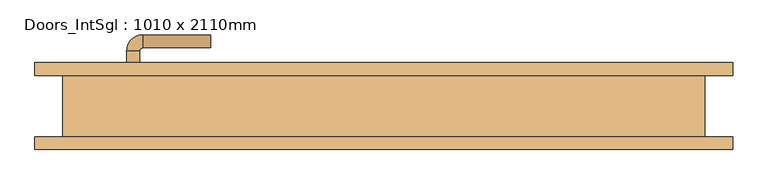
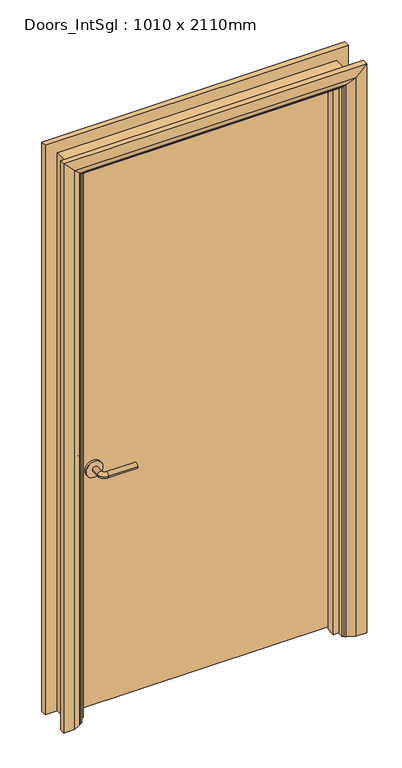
"""IFC4 building model written with IfcOpenShell, lengths in millimetres: door geometry, Doors_IntSgl : 1010 x 2110mm."""

from ifc_helpers import new_model, si_unit, point, frame, frame_2d, origin, place, context, project, spatial, polyline, circle_curve, ellipse_curve, trimmed, segment, composite_curve, outline, extrude, faceted_brep, source, transform, mapped, element, save
from ifc_brep_helpers import plane_surface, cylinder_surface, revolved_surface, advanced_brep


def doors_intsgl_1010_x_2110mm_9b3ab836(model_context):
    return source(origin(), model_context, "Body", "SolidModel", [
        advanced_brep(
        [(-398.0, 1.5, 900.0), (-378.0, 1.5, 900.0), (-378.0, -28.5, 900.0), (-398.0, -28.5, 900.0), (-373.0, -33.5, 900.0), (-373.0, -53.5, 900.0), (-268.0, -53.5, 900.0), (-268.0, -33.5, 900.0)],
        [
            (0, 1, circle_curve(frame((-388.0, 1.5, 900.0), z_axis=(0.0, 1.0, 0.0), x_axis=(1.0, 0.0, 0.0)), 10.0)),
            (1, 0, circle_curve(frame((-388.0, 1.5, 900.0), z_axis=(0.0, 1.0, 0.0), x_axis=(1.0, 0.0, 0.0)), 10.0)),
            (1, 2),
            (2, 3, circle_curve(frame((-388.0, -28.5, 900.0), z_axis=(0.0, 1.0, 0.0), x_axis=(1.0, 0.0, 0.0)), 10.0)),
            (3, 0),
            (3, 2, circle_curve(frame((-388.0, -28.5, 900.0), z_axis=(0.0, 1.0, 0.0), x_axis=(1.0, 0.0, 0.0)), 10.0)),
            (4, 5, circle_curve(frame((-373.0, -43.5, 900.0), z_axis=(-1.0, 0.0, 0.0), x_axis=(0.0, 1.0, 0.0)), 10.0)),
            (5, 3, circle_curve(frame((-373.0, -28.5, 900.0), z_axis=(0.0, 0.0, -1.0), x_axis=(-1.0, 0.0, 0.0)), 25.0)),
            (2, 4, circle_curve(frame((-373.0, -28.5, 900.0), z_axis=(0.0, 0.0, 1.0), x_axis=(-1.0, 0.0, 0.0)), 5.0)),
            (5, 4, circle_curve(frame((-373.0, -43.5, 900.0), z_axis=(-1.0, 0.0, 0.0), x_axis=(0.0, 1.0, 0.0)), 10.0)),
            (6, 7, circle_curve(frame((-268.0, -43.5, 900.0), z_axis=(1.0, 0.0, 0.0), x_axis=(0.0, 1.0, 0.0)), 10.0)),
            (7, 6, circle_curve(frame((-268.0, -43.5, 900.0), z_axis=(1.0, 0.0, 0.0), x_axis=(0.0, 1.0, 0.0)), 10.0)),
            (4, 7),
            (6, 5),
        ],
        [
            plane_surface(frame((-388.0, 1.5, 900.0), z_axis=(0.0, 1.0, 0.0), x_axis=(0.0, 0.0, 1.0))),
            cylinder_surface(frame((-388.0, 1.5, 900.0), z_axis=(0.0, 1.0, 0.0), x_axis=(1.0, 0.0, 0.0)), 10.0),
            revolved_surface(trimmed(ellipse_curve(frame((-388.0, -28.5, 900.0), z_axis=(0.0, -1.0, 0.0), x_axis=(1.0, 0.0, 0.0)), 10.0, 10.0), [point((-398.0, -28.5, 900.0))], [point((-378.0, -28.5, 900.0))], True, "CARTESIAN"), (-373.0, -28.5, 900.0), (0.0, 0.0, -1.0)),
            revolved_surface(trimmed(ellipse_curve(frame((-388.0, -28.5, 900.0), z_axis=(0.0, -1.0, 0.0), x_axis=(1.0, 0.0, 0.0)), 10.0, 10.0), [point((-378.0, -28.5, 900.0))], [point((-398.0, -28.5, 900.0))], True, "CARTESIAN"), (-373.0, -28.5, 900.0), (0.0, 0.0, -1.0)),
            plane_surface(frame((-268.0, -43.5, 900.0), z_axis=(1.0, 0.0, 0.0), x_axis=(0.0, 0.0, 1.0))),
            cylinder_surface(frame((-373.0, -43.5, 900.0), z_axis=(-1.0, 0.0, 0.0), x_axis=(0.0, 1.0, 0.0)), 10.0),
        ],
        [
            (0, [[1, 2]]),
            (1, [[3, 4, 5, -2]]),
            (1, [[-5, 6, -3, -1]]),
            (2, [[7, 8, -4, 9]]),
            (3, [[10, -9, -6, -8]]),
            (4, [[11, 12]]),
            (5, [[13, -11, 14, -7]]),
            (5, [[-14, -12, -13, -10]]),
        ],
    ),
        extrude(outline(composite_curve([segment(trimmed(circle_curve(frame_2d((900.0, -390.5)), 30.0), [point((900.0, -420.5))], [point((900.0, -360.5))], False, "CARTESIAN"), True, "CONTINUOUS"), segment(trimmed(circle_curve(frame_2d((900.0, -390.5)), 30.0), [point((900.0, -360.5))], [point((900.0, -420.5))], False, "CARTESIAN"), True, "CONTINUOUS")], self_intersect=False)), frame((0.0, 1.5, 0.0), z_axis=(0.0, 1.0, 0.0), x_axis=(0.0, 0.0, 1.0)), (0.0, 0.0, 1.0), 8.0),
        advanced_brep(
        [(-398.0, 55.5, 900.0), (-378.0, 55.5, 900.0), (-398.0, 85.5, 900.0), (-378.0, 85.5, 900.0), (-373.0, 90.5, 900.0), (-373.0, 110.5, 900.0), (-268.0, 110.5, 900.0), (-268.0, 90.5, 900.0)],
        [
            (0, 1, circle_curve(frame((-388.0, 55.5, 900.0), z_axis=(0.0, -1.0, 0.0), x_axis=(1.0, 0.0, 0.0)), 10.0)),
            (1, 0, circle_curve(frame((-388.0, 55.5, 900.0), z_axis=(0.0, -1.0, 0.0), x_axis=(1.0, 0.0, 0.0)), 10.0)),
            (0, 2),
            (2, 3, circle_curve(frame((-388.0, 85.5, 900.0), z_axis=(0.0, -1.0, 0.0), x_axis=(1.0, 0.0, 0.0)), 10.0)),
            (3, 1),
            (3, 2, circle_curve(frame((-388.0, 85.5, 900.0), z_axis=(0.0, -1.0, 0.0), x_axis=(1.0, 0.0, 0.0)), 10.0)),
            (4, 3, circle_curve(frame((-373.0, 85.5, 900.0), z_axis=(0.0, 0.0, 1.0), x_axis=(-1.0, 0.0, 0.0)), 5.0)),
            (2, 5, circle_curve(frame((-373.0, 85.5, 900.0), z_axis=(0.0, 0.0, -1.0), x_axis=(-1.0, 0.0, 0.0)), 25.0)),
            (5, 4, circle_curve(frame((-373.0, 100.5, 900.0), z_axis=(-1.0, 0.0, 0.0), x_axis=(0.0, -1.0, 0.0)), 10.0)),
            (4, 5, circle_curve(frame((-373.0, 100.5, 900.0), z_axis=(-1.0, 0.0, 0.0), x_axis=(0.0, -1.0, 0.0)), 10.0)),
            (6, 7, circle_curve(frame((-268.0, 100.5, 900.0), z_axis=(1.0, 0.0, 0.0), x_axis=(0.0, -1.0, 0.0)), 10.0)),
            (7, 6, circle_curve(frame((-268.0, 100.5, 900.0), z_axis=(1.0, 0.0, 0.0), x_axis=(0.0, -1.0, 0.0)), 10.0)),
            (5, 6),
            (7, 4),
        ],
        [
            plane_surface(frame((-388.0, 55.5, 900.0), z_axis=(0.0, -1.0, 0.0), x_axis=(0.0, 0.0, 1.0))),
            cylinder_surface(frame((-388.0, 55.5, 900.0), z_axis=(0.0, -1.0, 0.0), x_axis=(1.0, 0.0, 0.0)), 10.0),
            revolved_surface(trimmed(ellipse_curve(frame((-388.0, 85.5, 900.0), z_axis=(0.0, -1.0, 0.0), x_axis=(1.0, 0.0, 0.0)), 10.0, 10.0), [point((-398.0, 85.5, 900.0))], [point((-378.0, 85.5, 900.0))], True, "CARTESIAN"), (-373.0, 85.5, 900.0), (0.0, 0.0, -1.0)),
            revolved_surface(trimmed(ellipse_curve(frame((-388.0, 85.5, 900.0), z_axis=(0.0, -1.0, 0.0), x_axis=(1.0, 0.0, 0.0)), 10.0, 10.0), [point((-378.0, 85.5, 900.0))], [point((-398.0, 85.5, 900.0))], True, "CARTESIAN"), (-373.0, 85.5, 900.0), (0.0, 0.0, -1.0)),
            plane_surface(frame((-268.0, 100.5, 900.0), z_axis=(1.0, 0.0, 0.0), x_axis=(0.0, 0.0, 1.0))),
            cylinder_surface(frame((-373.0, 100.5, 900.0), z_axis=(-1.0, 0.0, 0.0), x_axis=(0.0, -1.0, 0.0)), 10.0),
        ],
        [
            (0, [[1, 2]]),
            (1, [[-1, 3, 4, 5]]),
            (1, [[-2, -5, 6, -3]]),
            (2, [[7, -4, 8, 9]]),
            (3, [[-8, -6, -7, 10]]),
            (4, [[11, 12]]),
            (5, [[-9, 13, -12, 14]]),
            (5, [[-10, -14, -11, -13]]),
        ],
    ),
        extrude(outline(composite_curve([segment(trimmed(circle_curve(frame_2d((900.0, -390.5)), 30.0), [point((900.0, -420.5))], [point((900.0, -360.5))], False, "CARTESIAN"), True, "CONTINUOUS"), segment(trimmed(circle_curve(frame_2d((900.0, -390.5)), 30.0), [point((900.0, -360.5))], [point((900.0, -420.5))], False, "CARTESIAN"), True, "CONTINUOUS")], self_intersect=False)), frame((0.0, 47.5, 0.0), z_axis=(0.0, 1.0, 0.0), x_axis=(0.0, 0.0, 1.0)), (0.0, 0.0, 1.0), 8.0),
        extrude(outline(polyline([(463.0, 9.5), (-463.0, 9.5), (-463.0, 47.5), (463.0, 47.5), (463.0, 9.5)])), frame((0.0, 0.0, 8.0), z_axis=(0.0, 0.0, 1.0), x_axis=(1.0, 0.0, 0.0)), (0.0, 0.0, 1.0), 2060.0),
        advanced_brep(
        [(540.0, 67.5, 0.0), (540.0, 47.5, 0.0), (470.0, 47.5, 0.0), (474.0, 53.5, 0.0), (500.0, 67.5, 0.0), (540.0, 67.5, 2145.0), (540.0, 47.5, 2145.0), (-540.0, 47.5, 2145.0), (-540.0, 47.5, 0.0), (-470.0, 47.5, 0.0), (-470.0, 47.5, 2075.0), (470.0, 47.5, 2075.0), (474.0, 53.5, 2079.0), (500.0, 67.5, 2105.0), (-500.0, 67.5, 2105.0), (-500.0, 67.5, 0.0), (-540.0, 67.5, 0.0), (-540.0, 67.5, 2145.0), (-474.0, 53.5, 2079.0), (-474.0, 53.5, 0.0)],
        [
            (0, 1),
            (1, 2),
            (2, 3, circle_curve(frame((478.0, 46.5, 0.0), z_axis=(0.0, 0.0, -1.0), x_axis=(1.0, 0.0, 0.0)), 8.0622577)),
            (3, 4),
            (4, 0),
            (0, 5),
            (5, 6),
            (6, 1),
            (6, 7),
            (7, 8),
            (8, 9),
            (9, 10),
            (10, 11),
            (11, 2),
            (11, 12, ellipse_curve(frame((478.0, 46.5, 2083.0), z_axis=(0.7071067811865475, 0.0, -0.7071067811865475), x_axis=(-0.7071067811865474, 0.0, -0.7071067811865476)), 11.4017543, 8.0622577)),
            (12, 3),
            (12, 13),
            (13, 4),
            (13, 14),
            (14, 15),
            (15, 16),
            (16, 17),
            (17, 5),
            (17, 7),
            (10, 18, ellipse_curve(frame((-478.0, 46.5, 2083.0), z_axis=(0.7071067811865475, 0.0, 0.7071067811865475), x_axis=(0.7071067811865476, 0.0, -0.7071067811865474)), 11.4017543, 8.0622577)),
            (18, 12),
            (18, 14),
            (15, 19),
            (19, 9, circle_curve(frame((-478.0, 46.5, 0.0), z_axis=(0.0, 0.0, -1.0), x_axis=(-1.0, 0.0, 0.0)), 8.0622577)),
            (8, 16),
            (19, 18),
        ],
        [
            plane_surface(frame((470.0, 47.5, 0.0), z_axis=(0.0, 0.0, -1.0), x_axis=(0.0, -1.0, 0.0))),
            plane_surface(frame((540.0, 67.5, 0.0), z_axis=(1.0, 0.0, 0.0), x_axis=(0.0, 0.0, 1.0))),
            plane_surface(frame((540.0, 47.5, 0.0), z_axis=(0.0, -1.0, 0.0), x_axis=(0.0, 0.0, 1.0))),
            cylinder_surface(frame((478.0, 46.5, 0.0), z_axis=(0.0, 0.0, -1.0), x_axis=(1.0, 0.0, 0.0)), 8.0622577),
            plane_surface(frame((474.0, 53.5, 0.0), z_axis=(-0.4740998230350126, 0.880471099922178, 0.0), x_axis=(0.0, 0.0, 1.0))),
            plane_surface(frame((500.0, 67.5, 0.0), z_axis=(0.0, 1.0, 0.0), x_axis=(0.0, 0.0, 1.0))),
            plane_surface(frame((540.0, 67.5, 2145.0), z_axis=(0.0, 0.0, 1.0), x_axis=(-1.0, 0.0, 0.0))),
            cylinder_surface(frame((470.0, 46.5, 2083.0), z_axis=(1.0, 0.0, 0.0), x_axis=(0.0, 0.0, 1.0)), 8.0622577),
            plane_surface(frame((474.0, 53.5, 2079.0), z_axis=(0.0, 0.8804710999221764, -0.4740998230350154), x_axis=(-1.0, 0.0, 0.0))),
            plane_surface(frame((-470.0, 47.5, 0.0), z_axis=(0.0, 0.0, -1.0), x_axis=(0.0, -1.0, 0.0))),
            plane_surface(frame((-540.0, 67.5, 2145.0), z_axis=(-1.0, 0.0, 0.0), x_axis=(0.0, 0.0, -1.0))),
            cylinder_surface(frame((-478.0, 46.5, 2075.0), z_axis=(0.0, 0.0, 1.0), x_axis=(-1.0, 0.0, 0.0)), 8.0622577),
            plane_surface(frame((-474.0, 53.5, 2079.0), z_axis=(0.47409982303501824, 0.8804710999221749, 0.0), x_axis=(0.0, 0.0, -1.0))),
        ],
        [
            (0, [[1, 2, 3, 4, 5]]),
            (1, [[-1, 6, 7, 8]]),
            (2, [[-2, -8, 9, 10, 11, 12, 13, 14]]),
            (3, [[-3, -14, 15, 16]]),
            (4, [[-4, -16, 17, 18]]),
            (5, [[-5, -18, 19, 20, 21, 22, 23, -6]]),
            (6, [[-7, -23, 24, -9]]),
            (7, [[-15, -13, 25, 26]]),
            (8, [[-17, -26, 27, -19]]),
            (9, [[-21, 28, 29, -11, 30]]),
            (10, [[-24, -22, -30, -10]]),
            (11, [[-25, -12, -29, 31]]),
            (12, [[-27, -31, -28, -20]]),
        ],
    ),
        extrude(outline(polyline([(0.0, -465.0), (0.0, -446.0), (2051.0, -446.0), (2051.0, 446.0), (0.0, 446.0), (0.0, 465.0), (2070.0, 465.0), (2070.0, -465.0), (0.0, -465.0)])), frame((0.0, -24.5, 0.0), z_axis=(0.0, 1.0, 0.0), x_axis=(0.0, 0.0, 1.0)), (0.0, 0.0, 1.0), 32.0),
        advanced_brep(
        [(-540.0, -67.5, 0.0), (-540.0, -47.5, 0.0), (-470.0, -47.5, 0.0), (-474.0, -53.5, 0.0), (-500.0, -67.5, 0.0), (-540.0, -67.5, 2145.0), (-540.0, -47.5, 2145.0), (-470.0, -47.5, 2075.0), (-474.0, -53.5, 2079.0), (-500.0, -67.5, 2105.0), (540.0, -67.5, 2145.0), (540.0, -47.5, 2145.0), (470.0, -47.5, 2075.0), (474.0, -53.5, 2079.0), (500.0, -67.5, 2105.0), (540.0, -67.5, 0.0), (500.0, -67.5, 0.0), (474.0, -53.5, 0.0), (470.0, -47.5, 0.0), (540.0, -47.5, 0.0)],
        [
            (0, 1),
            (1, 2),
            (2, 3, circle_curve(frame((-478.0, -46.5, 0.0), z_axis=(0.0, 0.0, -1.0), x_axis=(-1.0, 0.0, 0.0)), 8.0622577)),
            (3, 4),
            (4, 0),
            (0, 5),
            (5, 6),
            (6, 1),
            (6, 7),
            (7, 2),
            (7, 8, ellipse_curve(frame((-478.0, -46.5, 2083.0), z_axis=(-0.7071067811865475, 0.0, -0.7071067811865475), x_axis=(0.7071067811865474, 0.0, -0.7071067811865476)), 11.4017543, 8.0622577)),
            (8, 3),
            (8, 9),
            (9, 4),
            (9, 5),
            (5, 10),
            (10, 11),
            (11, 6),
            (11, 12),
            (12, 7),
            (12, 13, ellipse_curve(frame((478.0, -46.5, 2083.0), z_axis=(-0.7071067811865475, 0.0, 0.7071067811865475), x_axis=(-0.7071067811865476, 0.0, -0.7071067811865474)), 11.4017543, 8.0622577)),
            (13, 8),
            (13, 14),
            (14, 9),
            (14, 10),
            (15, 16),
            (16, 17),
            (17, 18, circle_curve(frame((478.0, -46.5, 0.0), z_axis=(0.0, 0.0, -1.0), x_axis=(1.0, 0.0, 0.0)), 8.0622577)),
            (18, 19),
            (19, 15),
            (10, 15),
            (19, 11),
            (18, 12),
            (17, 13),
            (16, 14),
        ],
        [
            plane_surface(frame((-470.0, -120.3010989, 0.0), z_axis=(0.0, 0.0, -1.0), x_axis=(1.0, 0.0, 0.0))),
            plane_surface(frame((-540.0, -67.5, 0.0), z_axis=(-1.0, 0.0, 0.0), x_axis=(0.0, 0.0, 1.0))),
            plane_surface(frame((-540.0, -47.5, 0.0), z_axis=(0.0, 1.0, 0.0), x_axis=(0.0, 0.0, 1.0))),
            cylinder_surface(frame((-478.0, -46.5, 0.0), z_axis=(0.0, 0.0, -1.0), x_axis=(-1.0, 0.0, 0.0)), 8.0622577),
            plane_surface(frame((-474.0, -53.5, 0.0), z_axis=(0.4740998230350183, -0.8804710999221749, 0.0), x_axis=(0.0, 0.0, 1.0))),
            plane_surface(frame((-500.0, -67.5, 0.0), z_axis=(0.0, -1.0, 0.0), x_axis=(0.0, 0.0, 1.0))),
            plane_surface(frame((-540.0, -67.5, 2145.0), z_axis=(0.0, 0.0, 1.0), x_axis=(1.0, 0.0, 0.0))),
            plane_surface(frame((-540.0, -47.5, 2145.0), z_axis=(0.0, 1.0, 0.0), x_axis=(1.0, 0.0, 0.0))),
            cylinder_surface(frame((-470.0, -46.5, 2083.0), z_axis=(-1.0, 0.0, 0.0), x_axis=(0.0, 0.0, 1.0)), 8.0622577),
            plane_surface(frame((-474.0, -53.5, 2079.0), z_axis=(0.0, -0.8804710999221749, -0.4740998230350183), x_axis=(1.0, 0.0, 0.0))),
            plane_surface(frame((-500.0, -67.5, 2105.0), z_axis=(0.0, -1.0, 0.0), x_axis=(1.0, 0.0, 0.0))),
            plane_surface(frame((470.0, -120.3010989, 0.0), z_axis=(0.0, 0.0, -1.0), x_axis=(-1.0, 0.0, 0.0))),
            plane_surface(frame((540.0, -67.5, 2145.0), z_axis=(1.0, 0.0, 0.0), x_axis=(0.0, 0.0, -1.0))),
            plane_surface(frame((540.0, -47.5, 2145.0), z_axis=(0.0, 1.0, 0.0), x_axis=(0.0, 0.0, -1.0))),
            cylinder_surface(frame((478.0, -46.5, 2075.0), z_axis=(0.0, 0.0, 1.0), x_axis=(1.0, 0.0, 0.0)), 8.0622577),
            plane_surface(frame((474.0, -53.5, 2079.0), z_axis=(-0.4740998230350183, -0.8804710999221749, 0.0), x_axis=(0.0, 0.0, -1.0))),
            plane_surface(frame((500.0, -67.5, 2105.0), z_axis=(0.0, -1.0, 0.0), x_axis=(0.0, 0.0, -1.0))),
        ],
        [
            (0, [[1, 2, 3, 4, 5]]),
            (1, [[-1, 6, 7, 8]]),
            (2, [[-2, -8, 9, 10]]),
            (3, [[-3, -10, 11, 12]]),
            (4, [[-4, -12, 13, 14]]),
            (5, [[-5, -14, 15, -6]]),
            (6, [[-7, 16, 17, 18]]),
            (7, [[-9, -18, 19, 20]]),
            (8, [[-11, -20, 21, 22]]),
            (9, [[-13, -22, 23, 24]]),
            (10, [[-15, -24, 25, -16]]),
            (11, [[26, 27, 28, 29, 30]]),
            (12, [[-17, 31, -30, 32]]),
            (13, [[-19, -32, -29, 33]]),
            (14, [[-21, -33, -28, 34]]),
            (15, [[-23, -34, -27, 35]]),
            (16, [[-25, -35, -26, -31]]),
        ],
    ),
        faceted_brep([(-465.0, 47.5, 0.0), (-465.0, -47.5, 0.0), (-497.0, -47.5, 0.0), (-497.0, 47.5, 0.0), (-465.0, 47.5, 2070.0), (-465.0, -47.5, 2070.0), (-497.0, -47.5, 2102.0), (-497.0, 47.5, 2102.0), (465.0, 47.5, 2070.0), (465.0, -47.5, 2070.0), (497.0, -47.5, 2102.0), (497.0, 47.5, 2102.0), (465.0, 47.5, 0.0), (497.0, 47.5, 0.0), (497.0, -47.5, 0.0), (465.0, -47.5, 0.0)], [[[0, 1, 2, 3]], [[1, 0, 4, 5]], [[2, 1, 5, 6]], [[3, 2, 6, 7]], [[0, 3, 7, 4]], [[5, 4, 8, 9]], [[6, 5, 9, 10]], [[7, 6, 10, 11]], [[4, 7, 11, 8]], [[12, 13, 14, 15]], [[9, 8, 12, 15]], [[10, 9, 15, 14]], [[11, 10, 14, 13]], [[8, 11, 13, 12]]]),
    ])


if __name__ == "__main__":
    model = new_model("IFC4")
    model_context = context("Model", 3, world=origin())
    ifc_project = project(units=[si_unit("LENGTHUNIT", "METRE", prefix="MILLI")], contexts=[model_context])
    site = spatial("IfcSite", under=ifc_project)
    building = spatial("IfcBuilding", under=site)
    placement = place(None, origin())
    doors_intsgl_1010_x_2110mm_shape = doors_intsgl_1010_x_2110mm_9b3ab836(model_context)
    element("IfcDoor", 1, ObjectType="Doors_IntSgl : 1010 x 2110mm", at=placement, inside=building, context=model_context, shape_type="MappedRepresentation", body=[
        mapped(doors_intsgl_1010_x_2110mm_shape, transform((0.0, 0.0, 0.0), x_axis=(1.0, 0.0, 0.0), y_axis=(0.0, 1.0, 0.0), z_axis=(0.0, 0.0, 1.0))),
    ])
    save(model, "model.ifc")
